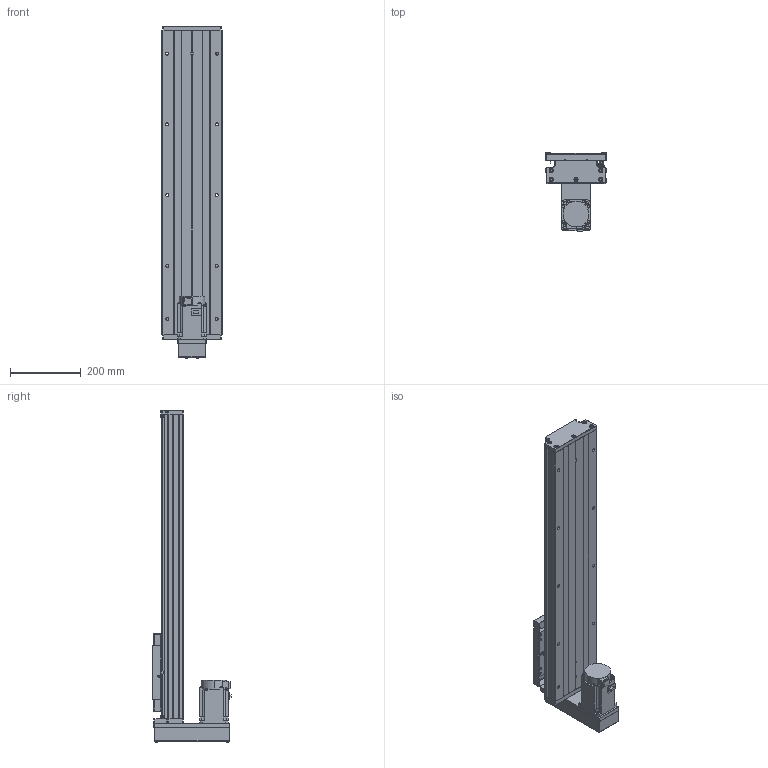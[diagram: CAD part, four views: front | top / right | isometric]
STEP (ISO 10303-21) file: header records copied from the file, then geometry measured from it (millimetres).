
FILE_DESCRIPTION (( 'STEP AP203' ), '1' );
FILE_NAME ('GTH17-600-BM-M75-C4.step', '2023-06-30T12:40:21', ( '微软用户' ), ( '微软中国' ), 'SwSTEP 2.0', 'SolidWorks 2020', '' );
FILE_SCHEMA (( 'CONFIG_CONTROL_DESIGN' ));
Length unit declared in the file: millimetre
Products named in the file (19): す晦芛蹟隊 M3℅5; GTH17-001_600; CTHA60-016; HG-KN73J-S100; GTH17-002_GTH17-002; GBT 70.1-M3℅5; GBT 70.2-M4¡Á45_M4¡Á35; GTH17-004; GBT77-2000 M3×3; GTH17-015-2_CTHA86-015-2; GTH17-005; GBT 70.1-M6¡Á20_M6¡Á20; GTH17-033; GB1155-6X6; GTH17-031; GTH17-600-BM-M75-C4; CTHA60-017; GBT 70.2-M3¡Á5_M3¡Á6; EE_SX911P_R
Assembly tree (58 placements, depth 2):
  GTH17-600-BM-M75-C4
    GTH17-001_600
    GTH17-002_GTH17-002
    GTH17-004
    GTH17-005
    GB1155-6X6  x2
    CTHA60-017  x3
    EE_SX911P_R  x3
    CTHA60-016  x2
    GBT 70.1-M3℅5  x6
    GBT77-2000 M3×3  x6
    GBT 70.1-M6¡Á20_M6¡Á20  x10
    GTH17-031
    GBT 70.2-M3¡Á5_M3¡Á6  x8
    す晦芛蹟隊 M3℅5  x6
    HG-KN73J-S100
    GBT 70.2-M4¡Á45_M4¡Á35  x4
    GTH17-015-2_CTHA86-015-2
    GTH17-033
Bounding box: 171 x 222.3 x 938.2 mm (x, y, z)
Volume: 7969965.9 mm3; surface area: 1136731 mm2
Topology: 61 solids, 61 shells, 2439 faces, 5821 edges, 3603 vertices
Faces by surface type: plane 1308, cylinder 658, cone 297, torus 124, sphere 32, bspline 20
Entity records: 44430 total; most frequent: CARTESIAN_POINT 10316, DIRECTION 6421, ORIENTED_EDGE 6354, EDGE_CURVE 3177, AXIS2_PLACEMENT_3D 2186, LINE 2049, VECTOR 2049, VERTEX_POINT 2015
